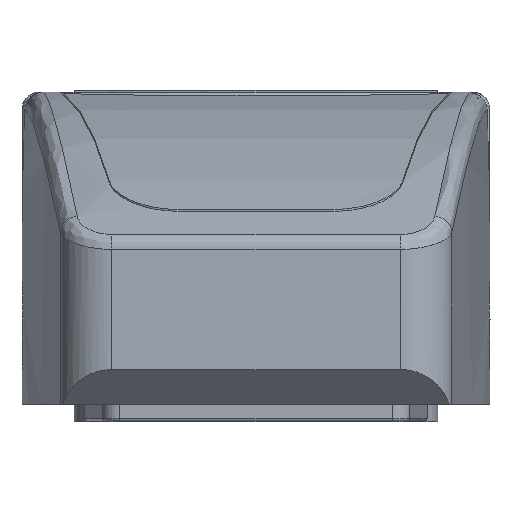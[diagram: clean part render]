
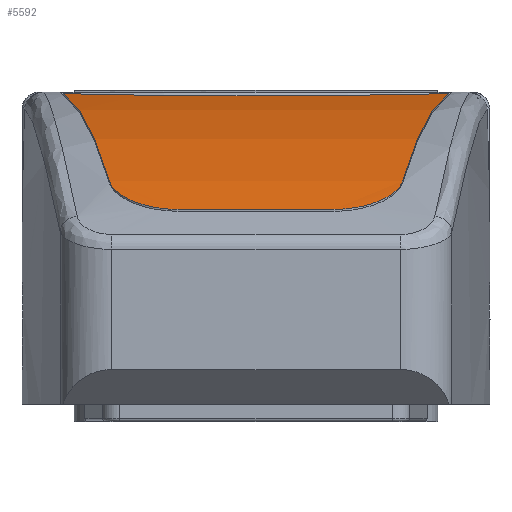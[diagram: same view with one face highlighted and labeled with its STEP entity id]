
A CAD part, left-side view. The second image highlights one B-rep face of the part: STEP entity #5592.
In plain terms, the highlighted cylindrical face has radius 59.071 mm (diameter 118.141 mm), a partial arc.
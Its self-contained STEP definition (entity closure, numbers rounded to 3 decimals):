
#103=ELLIPSE('',#6060,59.591,59.071);
#104=ELLIPSE('',#6061,59.591,59.071);
#145=B_SPLINE_CURVE_WITH_KNOTS('',3,(#8885,#8886,#8887,#8888,#8889,#8890,
#8891,#8892),.UNSPECIFIED.,.F.,.F.,(4,1,1,1,1,4),(5.997,6.932,
7.166,7.555,7.711,8.179),
 .UNSPECIFIED.);
#146=B_SPLINE_CURVE_WITH_KNOTS('',3,(#8896,#8897,#8898,#8899,#8900,#8901,
#8902,#8903,#8904,#8905),.UNSPECIFIED.,.F.,.F.,(4,2,2,2,4),(-0.569,
-0.463,-0.301,-0.15,0.),
 .UNSPECIFIED.);
#147=B_SPLINE_CURVE_WITH_KNOTS('',3,(#8908,#8909,#8910,#8911,#8912,#8913,
#8914,#8915,#8916,#8917),.UNSPECIFIED.,.F.,.F.,(4,2,2,2,4),(0.,0.15,
0.301,0.463,0.569),.UNSPECIFIED.);
#315=LINE('',#8907,#776);
#776=VECTOR('',#6972,8.994);
#1339=CYLINDRICAL_SURFACE('',#6059,59.071);
#1588=FACE_OUTER_BOUND('',#1948,.T.);
#1948=EDGE_LOOP('',(#4280,#4281,#4282,#4283,#4284,#4285));
#2630=VERTEX_POINT('',#8881);
#2631=VERTEX_POINT('',#8882);
#2632=VERTEX_POINT('',#8884);
#2633=VERTEX_POINT('',#8893);
#2634=VERTEX_POINT('',#8895);
#2635=VERTEX_POINT('',#8906);
#3254=EDGE_CURVE('',#2630,#2631,#103,.T.);
#3255=EDGE_CURVE('',#2631,#2632,#145,.T.);
#3256=EDGE_CURVE('',#2632,#2633,#104,.T.);
#3257=EDGE_CURVE('',#2633,#2634,#146,.T.);
#3258=EDGE_CURVE('',#2634,#2635,#315,.T.);
#3259=EDGE_CURVE('',#2635,#2630,#147,.T.);
#4280=ORIENTED_EDGE('',*,*,#3254,.T.);
#4281=ORIENTED_EDGE('',*,*,#3255,.T.);
#4282=ORIENTED_EDGE('',*,*,#3256,.T.);
#4283=ORIENTED_EDGE('',*,*,#3257,.T.);
#4284=ORIENTED_EDGE('',*,*,#3258,.T.);
#4285=ORIENTED_EDGE('',*,*,#3259,.T.);
#5592=ADVANCED_FACE('',(#1588),#1339,.T.);
#6059=AXIS2_PLACEMENT_3D('',#8880,#6966,#6967);
#6060=AXIS2_PLACEMENT_3D('',#8883,#6968,#6969);
#6061=AXIS2_PLACEMENT_3D('',#8894,#6970,#6971);
#6966=DIRECTION('center_axis',(0.,1.,0.));
#6967=DIRECTION('ref_axis',(-0.517,0.,0.856));
#6968=DIRECTION('center_axis',(0.131,0.991,0.01));
#6969=DIRECTION('ref_axis',(-0.988,0.132,-0.078));
#6970=DIRECTION('center_axis',(0.131,-0.991,0.01));
#6971=DIRECTION('ref_axis',(-0.988,-0.132,-0.078));
#6972=DIRECTION('',(0.,-1.,0.));
#8880=CARTESIAN_POINT('Origin',(-12.,0.,-40.971));
#8881=CARTESIAN_POINT('',(-36.275,-8.462,12.882));
#8882=CARTESIAN_POINT('',(-16.666,-11.115,17.915));
#8883=CARTESIAN_POINT('Origin',(-12.,-11.115,-40.971));
#8884=CARTESIAN_POINT('',(-16.666,11.115,17.915));
#8885=CARTESIAN_POINT('Ctrl Pts',(-16.666,-11.115,17.915));
#8886=CARTESIAN_POINT('Ctrl Pts',(-17.534,-7.953,17.847));
#8887=CARTESIAN_POINT('Ctrl Pts',(-18.136,-3.901,17.779));
#8888=CARTESIAN_POINT('Ctrl Pts',(-18.181,1.297,17.776));
#8889=CARTESIAN_POINT('Ctrl Pts',(-18.011,3.938,17.794));
#8890=CARTESIAN_POINT('Ctrl Pts',(-17.551,7.403,17.839));
#8891=CARTESIAN_POINT('Ctrl Pts',(-17.1,9.534,17.881));
#8892=CARTESIAN_POINT('Ctrl Pts',(-16.666,11.115,17.915));
#8893=CARTESIAN_POINT('',(-36.275,8.462,12.882));
#8894=CARTESIAN_POINT('Origin',(-12.,11.115,-40.971));
#8895=CARTESIAN_POINT('',(-39.629,4.497,11.241));
#8896=CARTESIAN_POINT('Ctrl Pts',(-36.275,8.462,12.882));
#8897=CARTESIAN_POINT('Ctrl Pts',(-36.609,8.416,12.731));
#8898=CARTESIAN_POINT('Ctrl Pts',(-36.946,8.323,12.575));
#8899=CARTESIAN_POINT('Ctrl Pts',(-37.747,7.975,12.196));
#8900=CARTESIAN_POINT('Ctrl Pts',(-38.188,7.658,11.979));
#8901=CARTESIAN_POINT('Ctrl Pts',(-38.861,6.94,11.641));
#8902=CARTESIAN_POINT('Ctrl Pts',(-39.148,6.501,11.492));
#8903=CARTESIAN_POINT('Ctrl Pts',(-39.532,5.53,11.292));
#8904=CARTESIAN_POINT('Ctrl Pts',(-39.629,4.998,11.241));
#8905=CARTESIAN_POINT('Ctrl Pts',(-39.629,4.497,11.241));
#8906=CARTESIAN_POINT('',(-39.629,-4.497,11.241));
#8907=CARTESIAN_POINT('',(-39.629,0.,11.241));
#8908=CARTESIAN_POINT('Ctrl Pts',(-39.629,-4.497,11.241));
#8909=CARTESIAN_POINT('Ctrl Pts',(-39.629,-4.998,11.241));
#8910=CARTESIAN_POINT('Ctrl Pts',(-39.532,-5.53,11.292));
#8911=CARTESIAN_POINT('Ctrl Pts',(-39.148,-6.501,11.492));
#8912=CARTESIAN_POINT('Ctrl Pts',(-38.861,-6.94,11.641));
#8913=CARTESIAN_POINT('Ctrl Pts',(-38.188,-7.658,11.979));
#8914=CARTESIAN_POINT('Ctrl Pts',(-37.747,-7.975,12.196));
#8915=CARTESIAN_POINT('Ctrl Pts',(-36.946,-8.323,12.575));
#8916=CARTESIAN_POINT('Ctrl Pts',(-36.609,-8.416,12.731));
#8917=CARTESIAN_POINT('Ctrl Pts',(-36.275,-8.462,12.882));
